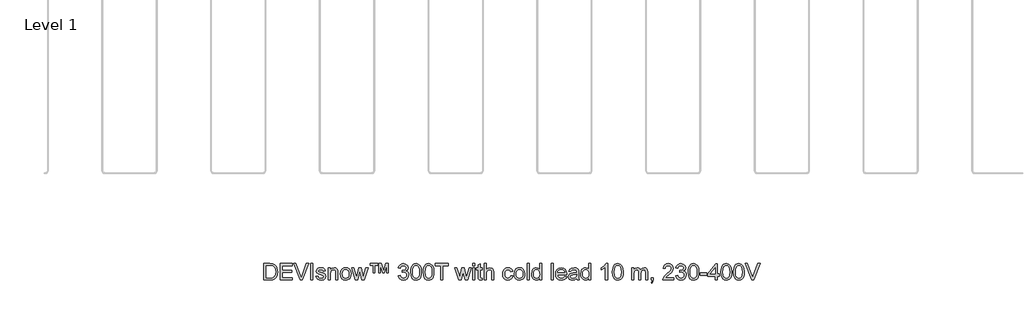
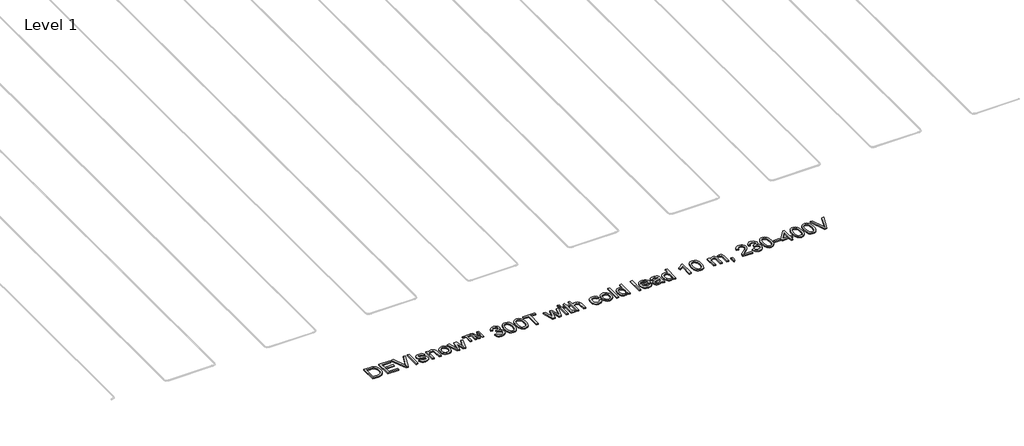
# One storey, part 14 of 26: 1 proxy.
"""IFC4 building model written with IfcOpenShell, lengths in millimetres."""

from ifc_helpers import new_model, si_unit, origin, origin_with_axes, place, context, project, spatial, polyline, outline, extrude, element, save

model = new_model("IFC4")

# Units and contexts
model_context = context("Model", 3, world=origin())
ifc_project = project(units=[si_unit("LENGTHUNIT", "METRE", prefix="MILLI")], contexts=[model_context])

# Site, building, storey
site = spatial("IfcSite", under=ifc_project)
building = spatial("IfcBuilding", under=site)
storey = spatial("IfcBuildingStorey", under=building, Name="Level 1", Elevation=0.0)

# Proxy
placement = place(None, origin())
element("IfcBuildingElementProxy", 1, Name="150mm", ObjectType="150mm", at=placement, inside=storey, context=model_context, shape_type="SweptSolid", body=[
    extrude(outline(polyline([(5899.4433309, -27720.7202), (5899.4433309, -27570.0357347), (5951.4250568, -27570.0357347), (5978.3172307, -27572.2062385), (6000.4637268, -27582.985181), (6010.8839843, -27594.4630992), (6018.3060036, -27608.7369206), (6022.7481787, -27625.5307337), (6024.2289037, -27644.568627), (6020.2189899, -27674.9740739), (6009.9182941, -27696.9182349), (5996.1595075, -27710.585051), (5978.1516838, -27718.145026), (5953.9266544, -27720.7202), (5899.4433309, -27720.7202)]), holes=[polyline([(5918.2788891, -27701.8846418), (5951.6089978, -27701.8846418), (5975.8524213, -27699.162315), (5989.8319371, -27691.4735813), (6001.2914613, -27672.7667819), (6005.3933455, -27644.2743214), (6003.3837901, -27623.746506), (5997.3551239, -27608.5897678), (5988.4477811, -27598.1787074), (5977.8021959, -27591.8879252), (5951.0939631, -27588.8712929), (5918.2788891, -27588.8712929), (5918.2788891, -27701.8846418)])]), origin_with_axes(), (0.0, 0.0, 1.0), 10.0),
    extrude(outline(polyline([(6050.1277962, -27720.7202), (6050.1277962, -27570.0357347), (6158.4322555, -27570.0357347), (6158.4322555, -27588.8712929), (6068.9633543, -27588.8712929), (6068.9633543, -27633.6057435), (6153.723366, -27633.6057435), (6153.723366, -27652.4413017), (6068.9633543, -27652.4413017), (6068.9633543, -27701.8846418), (6160.7867003, -27701.8846418), (6160.7867003, -27720.7202), (6050.1277962, -27720.7202)])), origin_with_axes(), (0.0, 0.0, 1.0), 10.0),
    extrude(outline(polyline([(6233.5537589, -27720.7202), (6173.5889937, -27570.0357347), (6193.7489271, -27570.0357347), (6233.8848527, -27678.5977115), (6242.0150448, -27703.0618642), (6250.0348723, -27678.5977115), (6290.2811626, -27570.0357347), (6310.4410959, -27570.0357347), (6253.0147165, -27720.7202), (6233.5537589, -27720.7202)])), origin_with_axes(), (0.0, 0.0, 1.0), 10.0),
    extrude(outline(polyline([(6330.3067237, -27720.7202), (6330.3067237, -27570.0357347), (6349.1422818, -27570.0357347), (6349.1422818, -27720.7202), (6330.3067237, -27720.7202)])), origin_with_axes(), (0.0, 0.0, 1.0), 10.0),
    extrude(outline(polyline([(6377.3956191, -27687.7579732), (6396.2311772, -27685.4035284), (6399.2018243, -27693.4601441), (6404.9499805, -27699.3830442), (6424.9259728, -27704.2390866), (6444.129413, -27699.7877144), (6450.3834069, -27689.3398658), (6448.8107114, -27684.5390057), (6444.0926248, -27680.8785799), (6424.7052436, -27675.5075028), (6396.3415418, -27666.2920588), (6383.9623127, -27655.5315104), (6379.7500638, -27640.337984), (6383.1345782, -27626.3032859), (6392.3684163, -27615.5795257), (6404.3429752, -27610.0061135), (6420.5481771, -27607.706851), (6443.4672254, -27611.4040651), (6458.0353524, -27621.4104554), (6464.5100755, -27638.314633), (6445.6745174, -27640.6690778), (6438.592789, -27630.2764114), (6422.0197051, -27626.5424092), (6403.9934873, -27630.1108645), (6398.585622, -27638.4249976), (6400.8297022, -27643.9064394), (6407.8562483, -27648.0635059), (6424.0798443, -27652.0734197), (6451.7261762, -27660.9393757), (6464.5652578, -27670.9825542), (6469.2189651, -27687.353303), (6463.7559174, -27705.3795208), (6447.9921739, -27718.4577257), (6424.6684554, -27723.0746447), (6405.6765474, -27720.8489587), (6391.8165933, -27714.1719004), (6382.5643611, -27703.1170465), (6377.3956191, -27687.7579732)])), origin_with_axes(), (0.0, 0.0, 1.0), 10.0),
    extrude(outline(polyline([(6490.408968, -27720.7202), (6490.408968, -27610.0612958), (6509.2445261, -27610.0612958), (6509.2445261, -27625.5123396), (6523.6471062, -27612.1582232), (6543.3103989, -27607.706851), (6561.0974934, -27611.2937005), (6573.2375992, -27620.7114796), (6578.8845878, -27634.5622367), (6579.8778692, -27652.7723954), (6579.8778692, -27720.7202), (6561.0423111, -27720.7202), (6561.0423111, -27655.3107812), (6558.8718073, -27638.6457268), (6551.2014677, -27629.834953), (6538.2704156, -27626.5424092), (6527.2385542, -27628.3910162), (6517.8345707, -27633.9368373), (6511.3920373, -27644.6514004), (6509.2445261, -27662.0062335), (6509.2445261, -27720.7202), (6490.408968, -27720.7202)])), origin_with_axes(), (0.0, 0.0, 1.0), 10.0),
    extrude(outline(polyline([(6601.0678721, -27665.3907479), (6605.1421652, -27638.7101062), (6617.3650445, -27619.9573215), (6632.4666004, -27610.7694686), (6650.5480005, -27607.706851), (6670.3354533, -27611.4362548), (6686.1405835, -27622.6244659), (6696.5010602, -27640.3885678), (6699.9545524, -27663.8456435), (6698.4278422, -27682.8743397), (6693.8477113, -27697.3596933), (6686.3475171, -27708.2076136), (6676.0606168, -27716.3240101), (6663.8423361, -27721.3869861), (6650.5480005, -27723.0746447), (6630.5214244, -27719.3590366), (6614.7346883, -27708.2122121), (6604.4845762, -27690.0756298), (6601.0678721, -27665.3907479)]), holes=[polyline([(6619.9034303, -27665.3539597), (6622.0831311, -27682.4006916), (6628.6222336, -27694.545396), (6638.4630769, -27701.8156639), (6650.5480005, -27704.2390866), (6662.5777417, -27701.8018684), (6672.400191, -27694.4902137), (6678.9392935, -27682.184561), (6681.1189943, -27664.7653485), (6678.9254979, -27648.2152572), (6672.3450087, -27636.2360998), (6662.5087638, -27628.9658318), (6650.5480005, -27626.5424092), (6638.4630769, -27628.9566348), (6628.6222336, -27636.1993116), (6622.0831311, -27648.3164248), (6619.9034303, -27665.3539597)])]), origin_with_axes(), (0.0, 0.0, 1.0), 10.0),
    extrude(outline(polyline([(6739.5018669, -27720.7202), (6705.8406644, -27610.0612958), (6725.4119865, -27610.0612958), (6744.505062, -27674.624586), (6750.207233, -27697.6907871), (6754.8793343, -27675.4707146), (6770.0728607, -27610.0612958), (6792.5136624, -27610.0612958), (6807.6336124, -27675.2867736), (6811.790679, -27695.4099187), (6817.7503673, -27674.1831276), (6836.880231, -27610.0612958), (6856.5251296, -27610.0612958), (6822.6064096, -27720.7202), (6799.8345141, -27720.7202), (6785.3767517, -27655.825816), (6781.182897, -27635.5923063), (6762.5312798, -27720.7202), (6739.5018669, -27720.7202)])), origin_with_axes(), (0.0, 0.0, 1.0), 10.0),
    extrude(outline(polyline([(6956.5890323, -27654.7957464), (6956.5890323, -27570.0357347), (6977.4847296, -27570.0357347), (6999.0426145, -27638.0939038), (7020.342982, -27570.0357347), (7041.349044, -27570.0357347), (7041.349044, -27654.7957464), (7027.2223753, -27654.7957464), (7027.2223753, -27585.1924729), (7006.0323724, -27654.7957464), (6991.9057038, -27654.7957464), (6970.7157009, -27584.1624033), (6970.7157009, -27654.7957464), (6956.5890323, -27654.7957464)])), origin_with_axes(), (0.0, 0.0, 1.0), 10.0),
    extrude(outline(polyline([(6904.7912473, -27654.7957464), (6904.7912473, -27584.1624033), (6876.5379101, -27584.1624033), (6876.5379101, -27570.0357347), (6947.1712532, -27570.0357347), (6947.1712532, -27584.1624033), (6918.917916, -27584.1624033), (6918.917916, -27654.7957464), (6904.7912473, -27654.7957464)])), origin_with_axes(), (0.0, 0.0, 1.0), 10.0),
    extrude(outline(polyline([(7133.17239, -27680.6946389), (7152.0079481, -27678.3401941), (7156.2247955, -27690.1767973), (7162.4006145, -27698.1690337), (7170.8389077, -27702.7215733), (7181.8431779, -27704.2390866), (7194.7558359, -27702.1513563), (7204.725438, -27695.8881653), (7211.0989936, -27686.5439626), (7213.2235121, -27675.2131972), (7211.1173877, -27664.4572473), (7204.7990144, -27655.7338455), (7195.2340825, -27649.9534997), (7183.3882823, -27648.0267177), (7170.1813187, -27650.0868569), (7172.278246, -27631.2512987), (7175.2948784, -27631.4720279), (7196.6688223, -27626.0641626), (7203.7873389, -27619.2031634), (7206.1601778, -27609.4358964), (7204.4403295, -27601.3011058), (7199.2807845, -27594.7022225), (7191.4081098, -27590.3290253), (7181.5488723, -27588.8712929), (7171.6712407, -27590.3428209), (7163.596231, -27594.7574048), (7157.700922, -27602.1150447), (7154.3623929, -27612.4157406), (7135.5268347, -27610.0612958), (7141.0726558, -27593.1479211), (7150.9410903, -27580.5203716), (7164.4423595, -27572.6568939), (7180.8866847, -27570.0357347), (7203.6033979, -27575.2044768), (7219.4959001, -27589.3311454), (7224.9957359, -27608.3322504), (7219.7718116, -27625.6962806), (7204.3207678, -27638.1674802), (7216.1113858, -27642.9315521), (7224.8485832, -27651.0433501), (7230.2564485, -27662.0614158), (7232.0590703, -27675.544291), (7228.4538267, -27693.9016025), (7217.638096, -27709.2422817), (7201.3133325, -27719.616554), (7181.1809903, -27723.0746447), (7162.9708316, -27720.1223917), (7148.1451872, -27711.2656327), (7137.8352942, -27697.7183782), (7133.17239, -27680.6946389)])), origin_with_axes(), (0.0, 0.0, 1.0), 10.0),
    extrude(outline(polyline([(7248.5401836, -27646.5919779), (7249.9243396, -27622.4727146), (7254.0768077, -27603.2370848), (7260.956201, -27588.5907829), (7270.5211329, -27578.2395032), (7282.8405812, -27572.0866769), (7297.9835238, -27570.0357347), (7319.9828671, -27574.8917771), (7335.1763935, -27588.889687), (7344.0055614, -27611.1833359), (7347.4268639, -27646.5919779), (7346.0565035, -27670.5732855), (7341.9454222, -27689.7629301), (7335.1074156, -27704.4230276), (7325.5562793, -27714.8156939), (7313.2092399, -27721.009907), (7297.9835238, -27723.0746447), (7278.4122016, -27719.4877953), (7263.549769, -27708.7272469), (7252.29258, -27683.2422217), (7248.5401836, -27646.5919779)]), holes=[polyline([(7267.3757418, -27646.5551897), (7269.5830338, -27676.1834859), (7276.2049097, -27693.3313854), (7286.0641471, -27701.5121613), (7297.9835238, -27704.2390866), (7309.9029004, -27701.5029642), (7319.7621379, -27693.2945972), (7326.3840138, -27676.1375007), (7328.5913058, -27646.5551897), (7326.4575902, -27617.5936797), (7320.0564435, -27600.3124229), (7310.2156001, -27591.7315754), (7297.7627946, -27588.8712929), (7285.9721767, -27591.3912846), (7276.4992153, -27598.9512596), (7269.6566102, -27617.3085711), (7267.3757418, -27646.5551897)])]), origin_with_axes(), (0.0, 0.0, 1.0), 10.0),
    extrude(outline(polyline([(7363.9079773, -27646.5919779), (7365.2921333, -27622.4727146), (7369.4446014, -27603.2370848), (7376.3239947, -27588.5907829), (7385.8889265, -27578.2395032), (7398.2083749, -27572.0866769), (7413.3513175, -27570.0357347), (7435.3506608, -27574.8917771), (7450.5441872, -27588.889687), (7459.3733551, -27611.1833359), (7462.7946576, -27646.5919779), (7461.4242972, -27670.5732855), (7457.3132159, -27689.7629301), (7450.4752093, -27704.4230276), (7440.924073, -27714.8156939), (7428.5770336, -27721.009907), (7413.3513175, -27723.0746447), (7393.7799953, -27719.4877953), (7378.9175627, -27708.7272469), (7367.6603737, -27683.2422217), (7363.9079773, -27646.5919779)]), holes=[polyline([(7382.7435355, -27646.5551897), (7384.9508275, -27676.1834859), (7391.5727034, -27693.3313854), (7401.4319408, -27701.5121613), (7413.3513175, -27704.2390866), (7425.2706941, -27701.5029642), (7435.1299316, -27693.2945972), (7441.7518075, -27676.1375007), (7443.9590995, -27646.5551897), (7441.8253839, -27617.5936797), (7435.4242372, -27600.3124229), (7425.5833938, -27591.7315754), (7413.1305883, -27588.8712929), (7401.3399703, -27591.3912846), (7391.867009, -27598.9512596), (7385.0244039, -27617.3085711), (7382.7435355, -27646.5551897)])]), origin_with_axes(), (0.0, 0.0, 1.0), 10.0),
    extrude(outline(polyline([(7524.0102216, -27720.7202), (7524.0102216, -27588.8712929), (7474.5668815, -27588.8712929), (7474.5668815, -27570.0357347), (7592.2891199, -27570.0357347), (7592.2891199, -27588.8712929), (7542.8457798, -27588.8712929), (7542.8457798, -27720.7202), (7524.0102216, -27720.7202)])), origin_with_axes(), (0.0, 0.0, 1.0), 10.0),
    extrude(outline(polyline([(7688.3431089, -27720.7202), (7654.6819063, -27610.0612958), (7674.2532285, -27610.0612958), (7693.346304, -27674.624586), (7699.0484749, -27697.6907871), (7703.7205763, -27675.4707146), (7718.9141027, -27610.0612958), (7741.3549044, -27610.0612958), (7756.4748544, -27675.2867736), (7760.6319209, -27695.4099187), (7766.5916092, -27674.1831276), (7785.721473, -27610.0612958), (7805.3663715, -27610.0612958), (7771.4476516, -27720.7202), (7748.6757561, -27720.7202), (7734.2179937, -27655.825816), (7730.0241389, -27635.5923063), (7711.3725218, -27720.7202), (7688.3431089, -27720.7202)])), origin_with_axes(), (0.0, 0.0, 1.0), 10.0),
    extrude(outline(polyline([(7818.3158178, -27588.8712929), (7818.3158178, -27570.0357347), (7837.1513759, -27570.0357347), (7837.1513759, -27588.8712929), (7818.3158178, -27588.8712929)])), origin_with_axes(), (0.0, 0.0, 1.0), 10.0),
    extrude(outline(polyline([(7818.3158178, -27720.7202), (7818.3158178, -27610.0612958), (7837.1513759, -27610.0612958), (7837.1513759, -27720.7202), (7818.3158178, -27720.7202)])), origin_with_axes(), (0.0, 0.0, 1.0), 10.0),
    extrude(outline(polyline([(7905.4302742, -27705.0116388), (7907.784719, -27721.272023), (7893.6948386, -27723.0746447), (7877.912701, -27719.9476478), (7870.0400263, -27711.7438793), (7867.7591579, -27690.3699354), (7867.7591579, -27628.896854), (7853.6324893, -27628.896854), (7853.6324893, -27610.0612958), (7867.7591579, -27610.0612958), (7867.7591579, -27583.169122), (7886.5947161, -27572.0958739), (7886.5947161, -27610.0612958), (7905.4302742, -27610.0612958), (7905.4302742, -27628.896854), (7886.5947161, -27628.896854), (7886.5947161, -27689.8181124), (7887.5879975, -27699.530197), (7890.8069649, -27702.9698937), (7897.2265057, -27704.2390866), (7905.4302742, -27705.0116388)])), origin_with_axes(), (0.0, 0.0, 1.0), 10.0),
    extrude(outline(polyline([(7924.2658324, -27720.7202), (7924.2658324, -27570.0357347), (7943.1013905, -27570.0357347), (7943.1013905, -27625.4387632), (7957.7890792, -27612.1398291), (7975.8796763, -27607.706851), (7997.032891, -27612.5444993), (8009.8719727, -27625.9170098), (8013.7347336, -27650.6754681), (8013.7347336, -27720.7202), (7994.8991755, -27720.7202), (7994.8991755, -27652.6252427), (7993.4000563, -27640.8346247), (7988.9026989, -27632.7596149), (7981.6554236, -27628.0967106), (7971.9065508, -27626.5424092), (7956.4739011, -27630.7362639), (7946.1732052, -27642.1038176), (7943.1013905, -27661.9326571), (7943.1013905, -27720.7202), (7924.2658324, -27720.7202)])), origin_with_axes(), (0.0, 0.0, 1.0), 10.0),
    extrude(outline(polyline([(8169.1280884, -27680.6946389), (8187.9636465, -27683.0490837), (8182.712131, -27699.80151), (8172.8436965, -27712.4612492), (8159.287245, -27720.4212958), (8142.9716785, -27723.0746447), (8122.9359054, -27719.3728322), (8107.2687309, -27708.2673944), (8097.1565745, -27690.2457752), (8093.7858558, -27665.7954181), (8095.2251941, -27649.0337947), (8099.543209, -27634.5070544), (8106.8088784, -27622.7762173), (8117.0911802, -27614.4023034), (8129.3922344, -27609.3807141), (8142.7141611, -27607.706851), (8158.6296559, -27610.0061135), (8171.3537744, -27616.9039009), (8180.4818464, -27628.0323313), (8185.6092018, -27643.0235226), (8166.7736436, -27645.3779673), (8158.0364462, -27631.2696928), (8142.8613139, -27626.5424092), (8130.6890184, -27628.8692628), (8121.0275175, -27635.8498237), (8114.7229398, -27647.8611708), (8112.6214139, -27665.2803833), (8114.6769546, -27682.9341205), (8120.8435765, -27694.9868544), (8130.3303335, -27701.9260285), (8142.3462791, -27704.2390866), (8152.0997505, -27702.7951497), (8160.0965854, -27698.4633392), (8165.9137194, -27691.1332905), (8169.1280884, -27680.6946389)])), origin_with_axes(), (0.0, 0.0, 1.0), 10.0),
    extrude(outline(polyline([(8199.7358704, -27665.3907479), (8203.8101635, -27638.7101062), (8216.0330428, -27619.9573215), (8231.1345987, -27610.7694686), (8249.2159987, -27607.706851), (8269.0034515, -27611.4362548), (8284.8085818, -27622.6244659), (8295.1690584, -27640.3885678), (8298.6225507, -27663.8456435), (8297.0958404, -27682.8743397), (8292.5157096, -27697.3596933), (8285.0155154, -27708.2076136), (8274.7286151, -27716.3240101), (8262.5103343, -27721.3869861), (8249.2159987, -27723.0746447), (8229.1894226, -27719.3590366), (8213.4026865, -27708.2122121), (8203.1525744, -27690.0756298), (8199.7358704, -27665.3907479)]), holes=[polyline([(8218.5714285, -27665.3539597), (8220.7511293, -27682.4006916), (8227.2902318, -27694.545396), (8237.1310752, -27701.8156639), (8249.2159987, -27704.2390866), (8261.24574, -27701.8018684), (8271.0681892, -27694.4902137), (8277.6072917, -27682.184561), (8279.7869925, -27664.7653485), (8277.5934961, -27648.2152572), (8271.0130069, -27636.2360998), (8261.1767621, -27628.9658318), (8249.2159987, -27626.5424092), (8237.1310752, -27628.9566348), (8227.2902318, -27636.1993116), (8220.7511293, -27648.3164248), (8218.5714285, -27665.3539597)])]), origin_with_axes(), (0.0, 0.0, 1.0), 10.0),
    extrude(outline(polyline([(8319.8125536, -27720.7202), (8319.8125536, -27570.0357347), (8338.6481117, -27570.0357347), (8338.6481117, -27720.7202), (8319.8125536, -27720.7202)])), origin_with_axes(), (0.0, 0.0, 1.0), 10.0),
    extrude(outline(polyline([(8435.1803473, -27720.7202), (8435.1803473, -27702.9514996), (8422.7183447, -27718.0438584), (8405.4922703, -27723.0746447), (8393.3153762, -27721.2536289), (8382.1685518, -27715.7905812), (8372.7323786, -27707.0671794), (8365.6874384, -27695.465101), (8361.3004456, -27681.4533955), (8359.8381147, -27665.5011125), (8365.2275859, -27635.5187299), (8371.9598264, -27623.6269444), (8381.3776055, -27614.8805499), (8392.7681518, -27609.5002758), (8405.4186939, -27607.706851), (8422.782724, -27612.8388049), (8435.1803473, -27626.1745272), (8435.1803473, -27570.0357347), (8454.0159054, -27570.0357347), (8454.0159054, -27720.7202), (8435.1803473, -27720.7202)]), holes=[polyline([(8378.6736728, -27665.4275361), (8380.7981913, -27682.465071), (8387.1717469, -27694.5821842), (8396.4331761, -27701.824861), (8407.2213156, -27704.2390866), (8418.0048566, -27701.9352256), (8427.0317611, -27695.0236426), (8433.1432007, -27683.3755789), (8435.1803473, -27666.8622759), (8433.1064125, -27648.808467), (8426.8846083, -27636.2912821), (8417.6277776, -27628.9796274), (8406.4487635, -27626.5424092), (8395.5502594, -27628.8830584), (8386.6199239, -27635.905006), (8380.6602356, -27647.9669369), (8378.6736728, -27665.4275361)])]), origin_with_axes(), (0.0, 0.0, 1.0), 10.0),
    extrude(outline(polyline([(8541.1303619, -27720.7202), (8541.1303619, -27570.0357347), (8559.96592, -27570.0357347), (8559.96592, -27720.7202), (8541.1303619, -27720.7202)])), origin_with_axes(), (0.0, 0.0, 1.0), 10.0),
    extrude(outline(polyline([(8665.6952055, -27687.7579732), (8684.1628816, -27690.112418), (8677.508816, -27704.0275544), (8666.8908219, -27714.4294178), (8652.5480227, -27720.913338), (8634.7195415, -27723.0746447), (8612.6190306, -27719.345241), (8595.6136854, -27708.1570298), (8584.7703636, -27690.2365781), (8581.155923, -27666.3104529), (8584.8071518, -27641.5795857), (8595.7608382, -27623.0843184), (8612.5362572, -27611.5512179), (8633.6526837, -27607.706851), (8654.1115211, -27611.5420208), (8670.4592773, -27623.0475302), (8681.1784389, -27641.5060093), (8684.7514928, -27666.2000883), (8684.6411282, -27671.2768598), (8599.9914811, -27671.2768598), (8603.2518353, -27685.3759373), (8610.8256059, -27695.7410125), (8621.7562997, -27702.1145681), (8635.0874235, -27704.2390866), (8653.5550996, -27700.3027492), (8665.6952055, -27687.7579732)]), holes=[polyline([(8599.9914811, -27652.4413017), (8665.9159347, -27652.4413017), (8663.3683518, -27642.4900937), (8658.3743538, -27635.3715771), (8647.3930762, -27628.7497012), (8633.5791073, -27626.5424092), (8620.8825799, -27628.3036442), (8610.3841475, -27633.5873494), (8603.0862884, -27641.8233076), (8599.9914811, -27652.4413017)])]), origin_with_axes(), (0.0, 0.0, 1.0), 10.0),
    extrude(outline(polyline([(8774.220394, -27706.5935313), (8755.955053, -27719.3590366), (8735.7767255, -27723.0746447), (8720.0359747, -27720.8397616), (8708.4246992, -27714.1351122), (8701.2647959, -27703.953978), (8698.8781614, -27691.2896403), (8702.483405, -27676.3904195), (8711.9563664, -27665.5746889), (8725.1449359, -27659.3942714), (8741.4421083, -27656.56158), (8774.1100294, -27650.0868569), (8774.220394, -27645.8930021), (8772.92361, -27637.4868985), (8769.0332579, -27631.9870627), (8760.3328487, -27627.9035726), (8748.211137, -27626.5424092), (8729.1548496, -27630.1660468), (8720.0681643, -27643.0235226), (8701.2326062, -27640.6690778), (8709.3811924, -27622.274978), (8725.7887294, -27611.4960356), (8750.6391581, -27607.706851), (8773.4662359, -27611.0545772), (8786.3604999, -27619.4606808), (8792.1362472, -27632.2445801), (8793.0559522, -27648.7256935), (8793.0559522, -27672.1597766), (8794.0124454, -27704.8828801), (8797.7648417, -27720.7202), (8778.9292836, -27720.7202), (8774.220394, -27706.5935313)]), holes=[polyline([(8774.220394, -27668.922415), (8743.8333412, -27674.6981624), (8727.6281393, -27677.7515829), (8720.2888935, -27682.7179899), (8717.7137196, -27689.9652652), (8723.32392, -27700.1555964), (8739.7866393, -27704.2390866), (8758.8429266, -27699.7325321), (8771.1301853, -27688.824831), (8774.1100294, -27674.256704), (8774.220394, -27668.922415)])]), origin_with_axes(), (0.0, 0.0, 1.0), 10.0),
    extrude(outline(polyline([(8887.233743, -27720.7202), (8887.233743, -27702.9514996), (8874.7717404, -27718.0438584), (8857.5456659, -27723.0746447), (8845.3687719, -27721.2536289), (8834.2219475, -27715.7905812), (8824.7857743, -27707.0671794), (8817.7408341, -27695.465101), (8813.3538413, -27681.4533955), (8811.8915103, -27665.5011125), (8817.2809816, -27635.5187299), (8824.0132221, -27623.6269444), (8833.4310012, -27614.8805499), (8844.8215474, -27609.5002758), (8857.4720895, -27607.706851), (8874.8361197, -27612.8388049), (8887.233743, -27626.1745272), (8887.233743, -27570.0357347), (8906.0693011, -27570.0357347), (8906.0693011, -27720.7202), (8887.233743, -27720.7202)]), holes=[polyline([(8830.7270685, -27665.4275361), (8832.851587, -27682.465071), (8839.2251426, -27694.5821842), (8848.4865718, -27701.824861), (8859.2747113, -27704.2390866), (8870.0582523, -27701.9352256), (8879.0851568, -27695.0236426), (8885.1965964, -27683.3755789), (8887.233743, -27666.8622759), (8885.1598082, -27648.808467), (8878.938004, -27636.2912821), (8869.6811733, -27628.9796274), (8858.5021591, -27626.5424092), (8847.603655, -27628.8830584), (8838.6733196, -27635.905006), (8832.7136313, -27647.9669369), (8830.7270685, -27665.4275361)])]), origin_with_axes(), (0.0, 0.0, 1.0), 10.0),
    extrude(outline(polyline([(9059.1082111, -27720.7202), (9040.272653, -27720.7202), (9040.272653, -27603.2922671), (9022.4303762, -27616.00259), (9002.6015366, -27625.5123396), (9002.6015366, -27607.706851), (9030.2110804, -27590.0853035), (9046.9681053, -27570.0357347), (9059.1082111, -27570.0357347), (9059.1082111, -27720.7202)])), origin_with_axes(), (0.0, 0.0, 1.0), 10.0),
    extrude(outline(polyline([(9103.8426617, -27646.5919779), (9105.2268177, -27622.4727146), (9109.3792857, -27603.2370848), (9116.2586791, -27588.5907829), (9125.8236109, -27578.2395032), (9138.1430592, -27572.0866769), (9153.2860019, -27570.0357347), (9175.2853452, -27574.8917771), (9190.4788716, -27588.889687), (9199.3080395, -27611.1833359), (9202.729342, -27646.5919779), (9201.3589816, -27670.5732855), (9197.2479003, -27689.7629301), (9190.4098937, -27704.4230276), (9180.8587574, -27714.8156939), (9168.5117179, -27721.009907), (9153.2860019, -27723.0746447), (9133.7146797, -27719.4877953), (9118.8522471, -27708.7272469), (9107.5950581, -27683.2422217), (9103.8426617, -27646.5919779)]), holes=[polyline([(9122.6782199, -27646.5551897), (9124.8855118, -27676.1834859), (9131.5073878, -27693.3313854), (9141.3666252, -27701.5121613), (9153.2860019, -27704.2390866), (9165.2053785, -27701.5029642), (9175.064616, -27693.2945972), (9181.6864919, -27676.1375007), (9183.8937839, -27646.5551897), (9181.7600683, -27617.5936797), (9175.3589216, -27600.3124229), (9165.5180782, -27591.7315754), (9153.0652727, -27588.8712929), (9141.2746547, -27591.3912846), (9131.8016934, -27598.9512596), (9124.9590882, -27617.3085711), (9122.6782199, -27646.5551897)])]), origin_with_axes(), (0.0, 0.0, 1.0), 10.0),
    extrude(outline(polyline([(9282.7804642, -27720.7202), (9282.7804642, -27610.0612958), (9301.6160223, -27610.0612958), (9301.6160223, -27628.2714546), (9314.5654686, -27613.3538397), (9332.9963565, -27607.706851), (9343.4717963, -27609.1461893), (9351.8687029, -27613.4642043), (9362.2429751, -27629.5958298), (9376.9398608, -27613.1790957), (9395.4995075, -27607.706851), (9409.6583658, -27609.9831209), (9420.1292071, -27616.8119304), (9426.5993317, -27628.3772206), (9428.7560399, -27644.8629326), (9428.7560399, -27720.7202), (9409.9204817, -27720.7202), (9409.9204817, -27652.9563364), (9408.1730422, -27637.2293812), (9401.8454719, -27629.4854652), (9391.0849236, -27626.5424092), (9380.8807967, -27628.4278044), (9372.5620651, -27634.0839901), (9367.0300396, -27643.8972423), (9365.1860311, -27658.2538372), (9365.1860311, -27720.7202), (9346.3504729, -27720.7202), (9346.3504729, -27650.8594091), (9341.9910713, -27632.6124621), (9336.2383166, -27628.0599224), (9327.6988558, -27626.5424092), (9313.7561282, -27630.5891111), (9304.4855019, -27642.4349114), (9301.6160223, -27664.9125013), (9301.6160223, -27720.7202), (9282.7804642, -27720.7202)])), origin_with_axes(), (0.0, 0.0, 1.0), 10.0),
    extrude(outline(polyline([(9461.7182666, -27720.7202), (9461.7182666, -27701.8846418), (9480.5538248, -27701.8846418), (9480.5538248, -27720.7202), (9477.1693104, -27739.9788224), (9466.4271562, -27751.327982), (9461.7182666, -27744.2646476), (9468.6344481, -27736.1344556), (9471.0992575, -27720.7202), (9461.7182666, -27720.7202)])), origin_with_axes(), (0.0, 0.0, 1.0), 10.0),
    extrude(outline(polyline([(9666.5549615, -27701.8846418), (9666.5549615, -27720.7202), (9567.6682812, -27720.7202), (9569.6916322, -27707.7339655), (9581.1327623, -27687.7395791), (9604.7139981, -27665.9057827), (9637.2347665, -27634.5254485), (9643.3324106, -27623.7097178), (9645.3649586, -27613.1882928), (9643.4473737, -27603.7567181), (9637.694619, -27595.9162331), (9628.8516556, -27590.6325279), (9617.6634444, -27588.8712929), (9605.9142132, -27590.5911412), (9596.7861412, -27595.7506862), (9590.8954307, -27603.9452576), (9588.8582842, -27614.7701853), (9570.022726, -27612.4157406), (9574.5890613, -27594.1963848), (9584.4620943, -27580.8882536), (9599.1267903, -27572.7488644), (9618.0681146, -27570.0357347), (9637.1473945, -27573.0523671), (9651.7844994, -27582.1022642), (9661.0965124, -27595.6219275), (9664.2005168, -27612.0478586), (9660.8527906, -27629.9085294), (9649.7243603, -27648.3762056), (9622.7402159, -27674.1831276), (9601.0719664, -27692.3013158), (9592.5738923, -27701.8846418), (9666.5549615, -27701.8846418)])), origin_with_axes(), (0.0, 0.0, 1.0), 10.0),
    extrude(outline(polyline([(9685.3905197, -27680.6946389), (9704.2260778, -27678.3401941), (9708.4429252, -27690.1767973), (9714.6187442, -27698.1690337), (9723.0570375, -27702.7215733), (9734.0613077, -27704.2390866), (9746.9739657, -27702.1513563), (9756.9435678, -27695.8881653), (9763.3171233, -27686.5439626), (9765.4416418, -27675.2131972), (9763.3355174, -27664.4572473), (9757.0171442, -27655.7338455), (9747.4522123, -27649.9534997), (9735.606412, -27648.0267177), (9722.3994484, -27650.0868569), (9724.4963758, -27631.2512987), (9727.5130081, -27631.4720279), (9748.8869521, -27626.0641626), (9756.0054687, -27619.2031634), (9758.3783075, -27609.4358964), (9756.6584592, -27601.3011058), (9751.4989142, -27594.7022225), (9743.6262395, -27590.3290253), (9733.7670021, -27588.8712929), (9723.8893705, -27590.3428209), (9715.8143607, -27594.7574048), (9709.9190517, -27602.1150447), (9706.5805226, -27612.4157406), (9687.7449645, -27610.0612958), (9693.2907855, -27593.1479211), (9703.1592201, -27580.5203716), (9716.6604893, -27572.6568939), (9733.1048145, -27570.0357347), (9755.8215277, -27575.2044768), (9771.7140299, -27589.3311454), (9777.2138657, -27608.3322504), (9771.9899414, -27625.6962806), (9756.5388976, -27638.1674802), (9768.3295155, -27642.9315521), (9777.0667129, -27651.0433501), (9782.4745782, -27662.0614158), (9784.2772, -27675.544291), (9780.6719564, -27693.9016025), (9769.8562258, -27709.2422817), (9753.5314622, -27719.616554), (9733.3991201, -27723.0746447), (9715.1889613, -27720.1223917), (9700.3633169, -27711.2656327), (9690.053424, -27697.7183782), (9685.3905197, -27680.6946389)])), origin_with_axes(), (0.0, 0.0, 1.0), 10.0),
    extrude(outline(polyline([(9800.7583134, -27646.5919779), (9802.1424694, -27622.4727146), (9806.2949374, -27603.2370848), (9813.1743307, -27588.5907829), (9822.7392626, -27578.2395032), (9835.0587109, -27572.0866769), (9850.2016535, -27570.0357347), (9872.2009968, -27574.8917771), (9887.3945232, -27588.889687), (9896.2236911, -27611.1833359), (9899.6449937, -27646.5919779), (9898.2746333, -27670.5732855), (9894.163552, -27689.7629301), (9887.3255454, -27704.4230276), (9877.7744091, -27714.8156939), (9865.4273696, -27721.009907), (9850.2016535, -27723.0746447), (9830.6303314, -27719.4877953), (9815.7678988, -27708.7272469), (9804.5107097, -27683.2422217), (9800.7583134, -27646.5919779)]), holes=[polyline([(9819.5938715, -27646.5551897), (9821.8011635, -27676.1834859), (9828.4230394, -27693.3313854), (9838.2822769, -27701.5121613), (9850.2016535, -27704.2390866), (9862.1210302, -27701.5029642), (9871.9802676, -27693.2945972), (9878.6021436, -27676.1375007), (9880.8094355, -27646.5551897), (9878.67572, -27617.5936797), (9872.2745732, -27600.3124229), (9862.4337299, -27591.7315754), (9849.9809243, -27588.8712929), (9838.1903064, -27591.3912846), (9828.717345, -27598.9512596), (9821.8747399, -27617.3085711), (9819.5938715, -27646.5551897)])]), origin_with_axes(), (0.0, 0.0, 1.0), 10.0),
    extrude(outline(polyline([(9911.4172175, -27675.9857493), (9911.4172175, -27657.1501912), (9970.2783368, -27657.1501912), (9970.2783368, -27675.9857493), (9911.4172175, -27675.9857493)])), origin_with_axes(), (0.0, 0.0, 1.0), 10.0),
    extrude(outline(polyline([(10047.9750141, -27720.7202), (10047.9750141, -27685.4035284), (9979.6961158, -27685.4035284), (9979.6961158, -27666.5679703), (10052.6839037, -27572.3901795), (10066.8105723, -27572.3901795), (10066.8105723, -27666.5679703), (10085.6461304, -27666.5679703), (10085.6461304, -27685.4035284), (10066.8105723, -27685.4035284), (10066.8105723, -27720.7202), (10047.9750141, -27720.7202)]), holes=[polyline([(10047.9750141, -27666.5679703), (10047.9750141, -27608.3690386), (10002.8726815, -27666.5679703), (10047.9750141, -27666.5679703)])]), origin_with_axes(), (0.0, 0.0, 1.0), 10.0),
    extrude(outline(polyline([(10102.1272438, -27646.5919779), (10103.5113998, -27622.4727146), (10107.6638679, -27603.2370848), (10114.5432612, -27588.5907829), (10124.108193, -27578.2395032), (10136.4276414, -27572.0866769), (10151.570584, -27570.0357347), (10173.5699273, -27574.8917771), (10188.7634537, -27588.889687), (10197.5926216, -27611.1833359), (10201.0139241, -27646.5919779), (10199.6435637, -27670.5732855), (10195.5324824, -27689.7629301), (10188.6944758, -27704.4230276), (10179.1433395, -27714.8156939), (10166.7963001, -27721.009907), (10151.570584, -27723.0746447), (10131.9992618, -27719.4877953), (10117.1368292, -27708.7272469), (10105.8796402, -27683.2422217), (10102.1272438, -27646.5919779)]), holes=[polyline([(10120.962802, -27646.5551897), (10123.170094, -27676.1834859), (10129.7919699, -27693.3313854), (10139.6512073, -27701.5121613), (10151.570584, -27704.2390866), (10163.4899606, -27701.5029642), (10173.3491981, -27693.2945972), (10179.971074, -27676.1375007), (10182.178366, -27646.5551897), (10180.0446504, -27617.5936797), (10173.6435037, -27600.3124229), (10163.8026603, -27591.7315754), (10151.3498548, -27588.8712929), (10139.5592368, -27591.3912846), (10130.0862755, -27598.9512596), (10123.2436704, -27617.3085711), (10120.962802, -27646.5551897)])]), origin_with_axes(), (0.0, 0.0, 1.0), 10.0),
    extrude(outline(polyline([(10217.4950375, -27646.5919779), (10218.8791935, -27622.4727146), (10223.0316615, -27603.2370848), (10229.9110549, -27588.5907829), (10239.4759867, -27578.2395032), (10251.795435, -27572.0866769), (10266.9383777, -27570.0357347), (10288.937721, -27574.8917771), (10304.1312474, -27588.889687), (10312.9604153, -27611.1833359), (10316.3817178, -27646.5919779), (10315.0113574, -27670.5732855), (10310.9002761, -27689.7629301), (10304.0622695, -27704.4230276), (10294.5111332, -27714.8156939), (10282.1640937, -27721.009907), (10266.9383777, -27723.0746447), (10247.3670555, -27719.4877953), (10232.5046229, -27708.7272469), (10221.2474339, -27683.2422217), (10217.4950375, -27646.5919779)]), holes=[polyline([(10236.3305957, -27646.5551897), (10238.5378876, -27676.1834859), (10245.1597636, -27693.3313854), (10255.019001, -27701.5121613), (10266.9383777, -27704.2390866), (10278.8577543, -27701.5029642), (10288.7169918, -27693.2945972), (10295.3388677, -27676.1375007), (10297.5461597, -27646.5551897), (10295.4124441, -27617.5936797), (10289.0112974, -27600.3124229), (10279.170454, -27591.7315754), (10266.7176485, -27588.8712929), (10254.9270305, -27591.3912846), (10245.4540691, -27598.9512596), (10238.611464, -27617.3085711), (10236.3305957, -27646.5551897)])]), origin_with_axes(), (0.0, 0.0, 1.0), 10.0),
    extrude(outline(polyline([(10384.4398869, -27720.7202), (10324.4751217, -27570.0357347), (10344.635055, -27570.0357347), (10384.7709807, -27678.5977115), (10392.9011728, -27703.0618642), (10400.9210003, -27678.5977115), (10441.1672906, -27570.0357347), (10461.3272239, -27570.0357347), (10403.9008445, -27720.7202), (10384.4398869, -27720.7202)])), origin_with_axes(), (0.0, 0.0, 1.0), 10.0),
])

save(model, "model.ifc")
